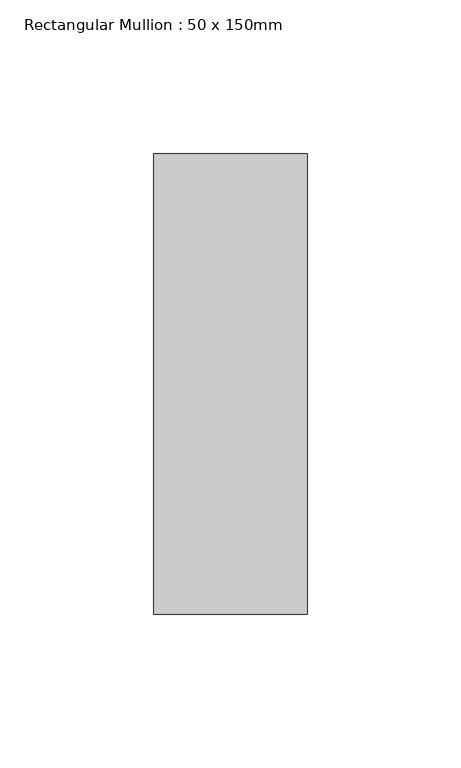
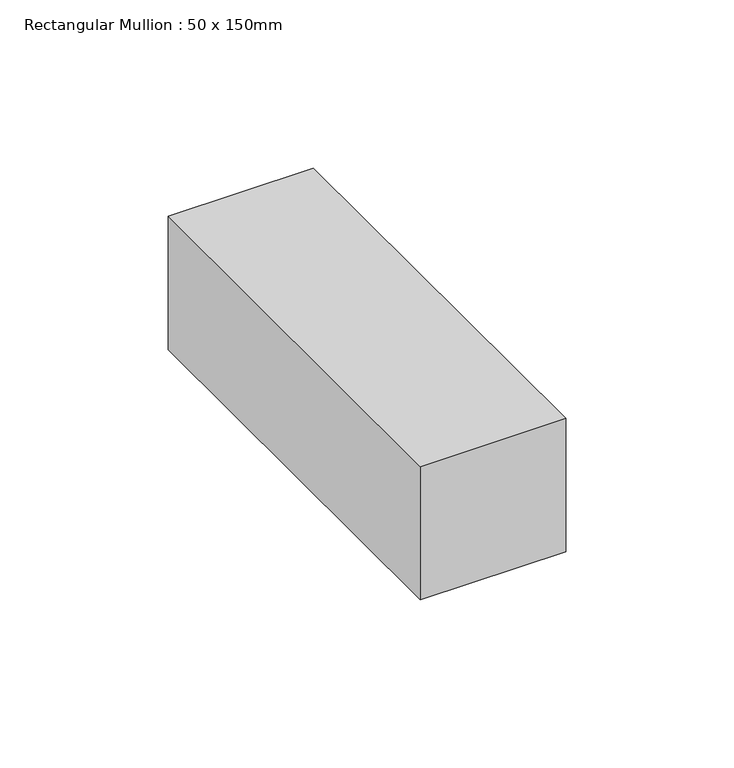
"""IFC4 building model written with IfcOpenShell, lengths in millimetres: member geometry, Rectangular Mullion : 50 x 150mm."""

from ifc_helpers import new_model, si_unit, frame, origin, place, context, project, spatial, polyline, outline, extrude, source, transform, mapped, element, save


def rectangular_mullion_50_x_150mm_75e70a66(model_context):
    return source(origin(), model_context, "Body", "SweptSolid", [
        extrude(outline(polyline([(0.0, 75.0), (0.0, -75.0), (-50.0, -75.0), (-50.0, 75.0), (0.0, 75.0)])), frame((0.0, 0.0, -48.4868616), z_axis=(0.0, 0.0, 1.0), x_axis=(1.0, 0.0, 0.0)), (0.0, 0.0, 1.0), 48.4868616),
    ])


if __name__ == "__main__":
    model = new_model("IFC4")
    model_context = context("Model", 3, world=origin())
    ifc_project = project(units=[si_unit("LENGTHUNIT", "METRE", prefix="MILLI")], contexts=[model_context])
    site = spatial("IfcSite", under=ifc_project)
    building = spatial("IfcBuilding", under=site)
    placement = place(None, origin())
    rectangular_mullion_50_x_150mm_shape = rectangular_mullion_50_x_150mm_75e70a66(model_context)
    element("IfcMember", 1, ObjectType="Rectangular Mullion : 50 x 150mm", at=placement, inside=building, context=model_context, shape_type="MappedRepresentation", body=[
        mapped(rectangular_mullion_50_x_150mm_shape, transform((0.0, 0.0, 0.0), x_axis=(1.0, 0.0, 0.0), y_axis=(0.0, 1.0, 0.0), z_axis=(0.0, 0.0, 1.0))),
    ])
    save(model, "model.ifc")
